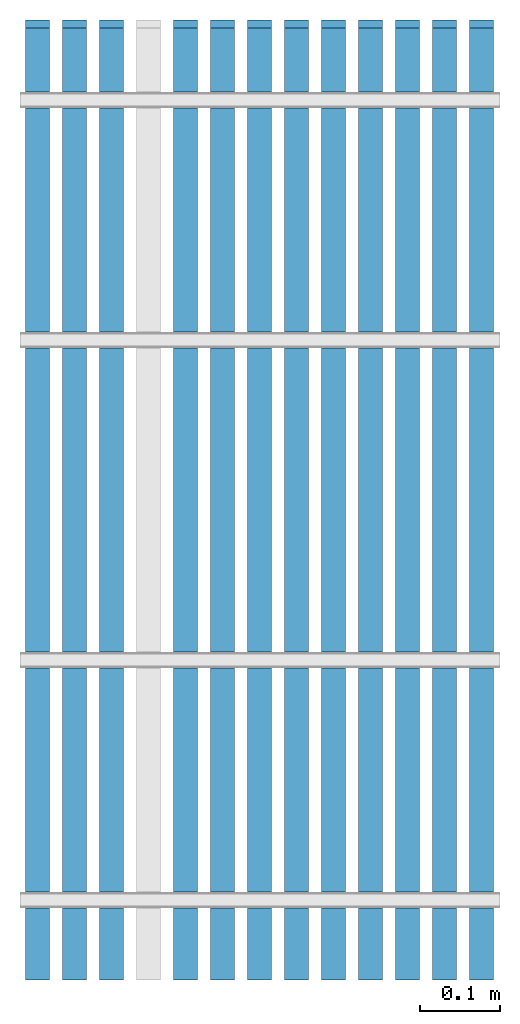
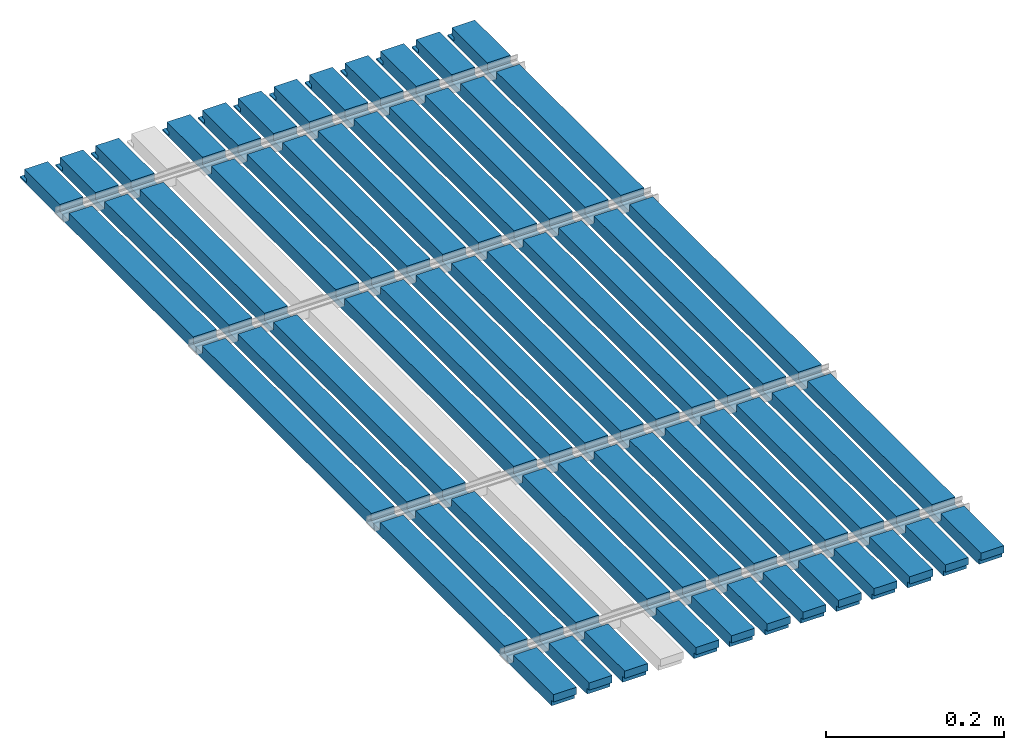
# One storey, part 2 of 3: 12 walls.
"""IFC2X3 building model written with IfcOpenShell, lengths in millimetres."""

from ifc_helpers import new_model, entity, si_unit, converted_unit, money_unit, direction, frame, origin_with_axes, place, context, subcontext, project, spatial, polyline, outline, extrude, boolean, faceted_brep, material, layer, layer_set, layer_usage, type_object, element, save


model = new_model("IFC2X3")

# Units and contexts
model_context = context("Model", 3, precision=1e-05, world=origin_with_axes(), true_north=direction((0.0, 1.0)))
body_context = subcontext(model_context, "Body", "Model", "MODEL_VIEW")
ifc_project = project(units=[si_unit("LENGTHUNIT", "METRE", prefix="MILLI"), si_unit("AREAUNIT", "SQUARE_METRE"), si_unit("VOLUMEUNIT", "CUBIC_METRE"), converted_unit("PLANEANGLEUNIT", "DEGREE", entity("IfcPlaneAngleMeasure", 0.0174532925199), si_unit("PLANEANGLEUNIT", "RADIAN"), dimensions=[0, 0, 0, 0, 0, 0, 0]), si_unit("SOLIDANGLEUNIT", "STERADIAN"), money_unit("AUD"), si_unit("TIMEUNIT", "SECOND"), si_unit("MASSUNIT", "GRAM"), si_unit("THERMODYNAMICTEMPERATUREUNIT", "DEGREE_CELSIUS"), si_unit("LUMINOUSINTENSITYUNIT", "LUMEN")], contexts=[model_context])

# Site, building, storey
site_placement = place(None, origin_with_axes())
site = spatial("IfcSite", under=ifc_project, at=site_placement, Name="Site", CompositionType="ELEMENT")
building_placement = place(site_placement, origin_with_axes())
building = spatial("IfcBuilding", under=site, at=building_placement, Name="Building", CompositionType="ELEMENT")
storey_placement = place(building_placement, origin_with_axes())
storey = spatial("IfcBuildingStorey", under=building, at=storey_placement, Name="GROUND", CompositionType="ELEMENT", Elevation=0.0)

# Walls
ifc_material = material(Name="Timber")
ifc_layer = layer(ifc_material, 30.0, ventilated="UNKNOWN")
ifc_layer_set = layer_set([ifc_layer], Name="Timber 30")
ifc_layer_usage_1 = layer_usage(ifc_layer_set, "AXIS2", "POSITIVE", 0.0)
wall_type = type_object("IfcWallType", Name="Timber 30", PredefinedType="NOTDEFINED")
wall_1_placement = place(storey_placement, frame((546.25, 0.0, 0.0), z_axis=(0.0, 0.0, 1.0), x_axis=(0.0, 1.0, 0.0)))
element("IfcWallStandardCase", 1, at=wall_1_placement, inside=storey, type_object=wall_type, material=ifc_layer_usage_1, Name="WALL-01", context=body_context, shape_type="CSG", body=[
    boolean("DIFFERENCE", boolean("DIFFERENCE", boolean("DIFFERENCE", boolean("DIFFERENCE", boolean("DIFFERENCE", boolean("DIFFERENCE", extrude(outline(polyline([(0.0, 0.0), (1200.0, 0.0), (1200.0, 30.0), (0.0, 30.0), (0.0, 0.0)])), origin_with_axes(), (0.0, 0.0, 1.0), 18.0), faceted_brep([(4.5, 0.0, 8.0), (0.0, 0.0, 8.0), (0.0, 0.0, 0.0), (4.5, 0.0, 0.0), (4.5, 30.0, 8.0), (0.0, 30.0, 8.0), (0.0, 30.0, 0.0), (4.5, 30.0, 0.0)], [[[0, 1, 2, 3]], [[1, 0, 4, 5]], [[1, 5, 6, 2]], [[7, 3, 2, 6]], [[0, 3, 7, 4]], [[4, 7, 6, 5]]])), faceted_brep([(90.0, 0.0, 8.0), (110.0, 0.0, 8.0), (110.0, 0.0, 18.0), (90.0, 0.0, 18.0), (90.0, 30.0, 8.0), (110.0, 30.0, 8.0), (110.0, 30.0, 18.0), (90.0, 30.0, 18.0)], [[[0, 1, 2, 3]], [[1, 0, 4, 5]], [[6, 2, 1, 5]], [[7, 3, 2, 6]], [[0, 3, 7, 4]], [[4, 7, 6, 5]]])), faceted_brep([(390.0, 0.0, 8.0), (410.0, 0.0, 8.0), (410.0, 0.0, 18.0), (390.0, 0.0, 18.0), (390.0, 30.0, 8.0), (410.0, 30.0, 8.0), (410.0, 30.0, 18.0), (390.0, 30.0, 18.0)], [[[0, 1, 2, 3]], [[1, 0, 4, 5]], [[6, 2, 1, 5]], [[7, 3, 2, 6]], [[0, 3, 7, 4]], [[4, 7, 6, 5]]])), faceted_brep([(790.0, 0.0, 8.0), (810.0, 0.0, 8.0), (810.0, 0.0, 18.0), (790.0, 0.0, 18.0), (790.0, 30.0, 8.0), (810.0, 30.0, 8.0), (810.0, 30.0, 18.0), (790.0, 30.0, 18.0)], [[[0, 1, 2, 3]], [[1, 0, 4, 5]], [[6, 2, 1, 5]], [[7, 3, 2, 6]], [[0, 3, 7, 4]], [[4, 7, 6, 5]]])), faceted_brep([(1090.0, 0.0, 8.0), (1110.0, 0.0, 8.0), (1110.0, 0.0, 18.0), (1090.0, 0.0, 18.0), (1090.0, 30.0, 8.0), (1110.0, 30.0, 8.0), (1110.0, 30.0, 18.0), (1090.0, 30.0, 18.0)], [[[0, 1, 2, 3]], [[1, 0, 4, 5]], [[6, 2, 1, 5]], [[7, 3, 2, 6]], [[0, 3, 7, 4]], [[4, 7, 6, 5]]])), faceted_brep([(1185.0, 0.0, 7.5), (1185.0, 0.0, 2.0), (1200.0, 0.0, 2.0), (1200.0, 0.0, 18.0), (1190.0, 0.0, 18.0), (1190.0, 0.0, 7.5), (1185.0, 30.0, 7.5), (1185.0, 30.0, 2.0), (1200.0, 30.0, 2.0), (1200.0, 30.0, 18.0), (1190.0, 30.0, 18.0), (1190.0, 30.0, 7.5)], [[[0, 1, 2, 3, 4, 5]], [[1, 0, 6, 7]], [[8, 2, 1, 7]], [[2, 8, 9, 3]], [[10, 4, 3, 9]], [[5, 4, 10, 11]], [[0, 5, 11, 6]], [[11, 10, 9, 8, 7, 6]]])),
])
ifc_layer_usage_2 = layer_usage(ifc_layer_set, "AXIS2", "POSITIVE", 0.0)
wall_2_placement = place(storey_placement, frame((37.5, 0.0, 0.0), z_axis=(0.0, 0.0, 1.0), x_axis=(0.0, 1.0, 0.0)))
element("IfcWallStandardCase", 2, at=wall_2_placement, inside=storey, type_object=wall_type, material=ifc_layer_usage_2, Name="WALL-01", context=body_context, shape_type="CSG", body=[
    boolean("DIFFERENCE", boolean("DIFFERENCE", boolean("DIFFERENCE", boolean("DIFFERENCE", boolean("DIFFERENCE", boolean("DIFFERENCE", extrude(outline(polyline([(0.0, 0.0), (1200.0, 0.0), (1200.0, 30.0), (0.0, 30.0), (0.0, 0.0)])), origin_with_axes(), (0.0, 0.0, 1.0), 18.0), faceted_brep([(4.5, 0.0, 8.0), (0.0, 0.0, 8.0), (0.0, 0.0, 0.0), (4.5, 0.0, 0.0), (4.5, 30.0, 8.0), (0.0, 30.0, 8.0), (0.0, 30.0, 0.0), (4.5, 30.0, 0.0)], [[[0, 1, 2, 3]], [[1, 0, 4, 5]], [[1, 5, 6, 2]], [[7, 3, 2, 6]], [[0, 3, 7, 4]], [[4, 7, 6, 5]]])), faceted_brep([(90.0, 0.0, 8.0), (110.0, 0.0, 8.0), (110.0, 0.0, 18.0), (90.0, 0.0, 18.0), (90.0, 30.0, 8.0), (110.0, 30.0, 8.0), (110.0, 30.0, 18.0), (90.0, 30.0, 18.0)], [[[0, 1, 2, 3]], [[1, 0, 4, 5]], [[6, 2, 1, 5]], [[7, 3, 2, 6]], [[0, 3, 7, 4]], [[4, 7, 6, 5]]])), faceted_brep([(390.0, 0.0, 8.0), (410.0, 0.0, 8.0), (410.0, 0.0, 18.0), (390.0, 0.0, 18.0), (390.0, 30.0, 8.0), (410.0, 30.0, 8.0), (410.0, 30.0, 18.0), (390.0, 30.0, 18.0)], [[[0, 1, 2, 3]], [[1, 0, 4, 5]], [[6, 2, 1, 5]], [[7, 3, 2, 6]], [[0, 3, 7, 4]], [[4, 7, 6, 5]]])), faceted_brep([(790.0, 0.0, 8.0), (810.0, 0.0, 8.0), (810.0, 0.0, 18.0), (790.0, 0.0, 18.0), (790.0, 30.0, 8.0), (810.0, 30.0, 8.0), (810.0, 30.0, 18.0), (790.0, 30.0, 18.0)], [[[0, 1, 2, 3]], [[1, 0, 4, 5]], [[6, 2, 1, 5]], [[7, 3, 2, 6]], [[0, 3, 7, 4]], [[4, 7, 6, 5]]])), faceted_brep([(1090.0, 0.0, 8.0), (1110.0, 0.0, 8.0), (1110.0, 0.0, 18.0), (1090.0, 0.0, 18.0), (1090.0, 30.0, 8.0), (1110.0, 30.0, 8.0), (1110.0, 30.0, 18.0), (1090.0, 30.0, 18.0)], [[[0, 1, 2, 3]], [[1, 0, 4, 5]], [[6, 2, 1, 5]], [[7, 3, 2, 6]], [[0, 3, 7, 4]], [[4, 7, 6, 5]]])), faceted_brep([(1185.0, 0.0, 7.5), (1185.0, 0.0, 2.0), (1200.0, 0.0, 2.0), (1200.0, 0.0, 18.0), (1190.0, 0.0, 18.0), (1190.0, 0.0, 7.5), (1185.0, 30.0, 7.5), (1185.0, 30.0, 2.0), (1200.0, 30.0, 2.0), (1200.0, 30.0, 18.0), (1190.0, 30.0, 18.0), (1190.0, 30.0, 7.5)], [[[0, 1, 2, 3, 4, 5]], [[1, 0, 6, 7]], [[8, 2, 1, 7]], [[2, 8, 9, 3]], [[10, 4, 3, 9]], [[5, 4, 10, 11]], [[0, 5, 11, 6]], [[11, 10, 9, 8, 7, 6]]])),
])
ifc_layer_usage_3 = layer_usage(ifc_layer_set, "AXIS2", "POSITIVE", 0.0)
wall_3_placement = place(storey_placement, frame((592.5, 0.0, 0.0), z_axis=(0.0, 0.0, 1.0), x_axis=(0.0, 1.0, 0.0)))
element("IfcWallStandardCase", 3, at=wall_3_placement, inside=storey, type_object=wall_type, material=ifc_layer_usage_3, Name="WALL-01", context=body_context, shape_type="CSG", body=[
    boolean("DIFFERENCE", boolean("DIFFERENCE", boolean("DIFFERENCE", boolean("DIFFERENCE", boolean("DIFFERENCE", boolean("DIFFERENCE", extrude(outline(polyline([(0.0, 0.0), (1200.0, 0.0), (1200.0, 30.0), (0.0, 30.0), (0.0, 0.0)])), origin_with_axes(), (0.0, 0.0, 1.0), 18.0), faceted_brep([(4.5, 0.0, 8.0), (0.0, 0.0, 8.0), (0.0, 0.0, 0.0), (4.5, 0.0, 0.0), (4.5, 30.0, 8.0), (0.0, 30.0, 8.0), (0.0, 30.0, 0.0), (4.5, 30.0, 0.0)], [[[0, 1, 2, 3]], [[1, 0, 4, 5]], [[1, 5, 6, 2]], [[7, 3, 2, 6]], [[0, 3, 7, 4]], [[4, 7, 6, 5]]])), faceted_brep([(90.0, 0.0, 8.0), (110.0, 0.0, 8.0), (110.0, 0.0, 18.0), (90.0, 0.0, 18.0), (90.0, 30.0, 8.0), (110.0, 30.0, 8.0), (110.0, 30.0, 18.0), (90.0, 30.0, 18.0)], [[[0, 1, 2, 3]], [[1, 0, 4, 5]], [[6, 2, 1, 5]], [[7, 3, 2, 6]], [[0, 3, 7, 4]], [[4, 7, 6, 5]]])), faceted_brep([(390.0, 0.0, 8.0), (410.0, 0.0, 8.0), (410.0, 0.0, 18.0), (390.0, 0.0, 18.0), (390.0, 30.0, 8.0), (410.0, 30.0, 8.0), (410.0, 30.0, 18.0), (390.0, 30.0, 18.0)], [[[0, 1, 2, 3]], [[1, 0, 4, 5]], [[6, 2, 1, 5]], [[7, 3, 2, 6]], [[0, 3, 7, 4]], [[4, 7, 6, 5]]])), faceted_brep([(790.0, 0.0, 8.0), (810.0, 0.0, 8.0), (810.0, 0.0, 18.0), (790.0, 0.0, 18.0), (790.0, 30.0, 8.0), (810.0, 30.0, 8.0), (810.0, 30.0, 18.0), (790.0, 30.0, 18.0)], [[[0, 1, 2, 3]], [[1, 0, 4, 5]], [[6, 2, 1, 5]], [[7, 3, 2, 6]], [[0, 3, 7, 4]], [[4, 7, 6, 5]]])), faceted_brep([(1090.0, 0.0, 8.0), (1110.0, 0.0, 8.0), (1110.0, 0.0, 18.0), (1090.0, 0.0, 18.0), (1090.0, 30.0, 8.0), (1110.0, 30.0, 8.0), (1110.0, 30.0, 18.0), (1090.0, 30.0, 18.0)], [[[0, 1, 2, 3]], [[1, 0, 4, 5]], [[6, 2, 1, 5]], [[7, 3, 2, 6]], [[0, 3, 7, 4]], [[4, 7, 6, 5]]])), faceted_brep([(1185.0, 0.0, 7.5), (1185.0, 0.0, 2.0), (1200.0, 0.0, 2.0), (1200.0, 0.0, 18.0), (1190.0, 0.0, 18.0), (1190.0, 0.0, 7.5), (1185.0, 30.0, 7.5), (1185.0, 30.0, 2.0), (1200.0, 30.0, 2.0), (1200.0, 30.0, 18.0), (1190.0, 30.0, 18.0), (1190.0, 30.0, 7.5)], [[[0, 1, 2, 3, 4, 5]], [[1, 0, 6, 7]], [[8, 2, 1, 7]], [[2, 8, 9, 3]], [[10, 4, 3, 9]], [[5, 4, 10, 11]], [[0, 5, 11, 6]], [[11, 10, 9, 8, 7, 6]]])),
])
ifc_layer_usage_4 = layer_usage(ifc_layer_set, "AXIS2", "POSITIVE", 0.0)
wall_4_placement = place(storey_placement, frame((500.0, 0.0, 0.0), z_axis=(0.0, 0.0, 1.0), x_axis=(0.0, 1.0, 0.0)))
element("IfcWallStandardCase", 4, at=wall_4_placement, inside=storey, type_object=wall_type, material=ifc_layer_usage_4, Name="WALL-01", context=body_context, shape_type="CSG", body=[
    boolean("DIFFERENCE", boolean("DIFFERENCE", boolean("DIFFERENCE", boolean("DIFFERENCE", boolean("DIFFERENCE", boolean("DIFFERENCE", extrude(outline(polyline([(0.0, 0.0), (1200.0, 0.0), (1200.0, 30.0), (0.0, 30.0), (0.0, 0.0)])), origin_with_axes(), (0.0, 0.0, 1.0), 18.0), faceted_brep([(4.5, 0.0, 8.0), (0.0, 0.0, 8.0), (0.0, 0.0, 0.0), (4.5, 0.0, 0.0), (4.5, 30.0, 8.0), (0.0, 30.0, 8.0), (0.0, 30.0, 0.0), (4.5, 30.0, 0.0)], [[[0, 1, 2, 3]], [[1, 0, 4, 5]], [[1, 5, 6, 2]], [[7, 3, 2, 6]], [[0, 3, 7, 4]], [[4, 7, 6, 5]]])), faceted_brep([(90.0, 0.0, 8.0), (110.0, 0.0, 8.0), (110.0, 0.0, 18.0), (90.0, 0.0, 18.0), (90.0, 30.0, 8.0), (110.0, 30.0, 8.0), (110.0, 30.0, 18.0), (90.0, 30.0, 18.0)], [[[0, 1, 2, 3]], [[1, 0, 4, 5]], [[6, 2, 1, 5]], [[7, 3, 2, 6]], [[0, 3, 7, 4]], [[4, 7, 6, 5]]])), faceted_brep([(390.0, 0.0, 8.0), (410.0, 0.0, 8.0), (410.0, 0.0, 18.0), (390.0, 0.0, 18.0), (390.0, 30.0, 8.0), (410.0, 30.0, 8.0), (410.0, 30.0, 18.0), (390.0, 30.0, 18.0)], [[[0, 1, 2, 3]], [[1, 0, 4, 5]], [[6, 2, 1, 5]], [[7, 3, 2, 6]], [[0, 3, 7, 4]], [[4, 7, 6, 5]]])), faceted_brep([(790.0, 0.0, 8.0), (810.0, 0.0, 8.0), (810.0, 0.0, 18.0), (790.0, 0.0, 18.0), (790.0, 30.0, 8.0), (810.0, 30.0, 8.0), (810.0, 30.0, 18.0), (790.0, 30.0, 18.0)], [[[0, 1, 2, 3]], [[1, 0, 4, 5]], [[6, 2, 1, 5]], [[7, 3, 2, 6]], [[0, 3, 7, 4]], [[4, 7, 6, 5]]])), faceted_brep([(1090.0, 0.0, 8.0), (1110.0, 0.0, 8.0), (1110.0, 0.0, 18.0), (1090.0, 0.0, 18.0), (1090.0, 30.0, 8.0), (1110.0, 30.0, 8.0), (1110.0, 30.0, 18.0), (1090.0, 30.0, 18.0)], [[[0, 1, 2, 3]], [[1, 0, 4, 5]], [[6, 2, 1, 5]], [[7, 3, 2, 6]], [[0, 3, 7, 4]], [[4, 7, 6, 5]]])), faceted_brep([(1185.0, 0.0, 7.5), (1185.0, 0.0, 2.0), (1200.0, 0.0, 2.0), (1200.0, 0.0, 18.0), (1190.0, 0.0, 18.0), (1190.0, 0.0, 7.5), (1185.0, 30.0, 7.5), (1185.0, 30.0, 2.0), (1200.0, 30.0, 2.0), (1200.0, 30.0, 18.0), (1190.0, 30.0, 18.0), (1190.0, 30.0, 7.5)], [[[0, 1, 2, 3, 4, 5]], [[1, 0, 6, 7]], [[8, 2, 1, 7]], [[2, 8, 9, 3]], [[10, 4, 3, 9]], [[5, 4, 10, 11]], [[0, 5, 11, 6]], [[11, 10, 9, 8, 7, 6]]])),
])
ifc_layer_usage_5 = layer_usage(ifc_layer_set, "AXIS2", "POSITIVE", 0.0)
wall_5_placement = place(storey_placement, frame((453.75, 0.0, 0.0), z_axis=(0.0, 0.0, 1.0), x_axis=(0.0, 1.0, 0.0)))
element("IfcWallStandardCase", 5, at=wall_5_placement, inside=storey, type_object=wall_type, material=ifc_layer_usage_5, Name="WALL-01", context=body_context, shape_type="CSG", body=[
    boolean("DIFFERENCE", boolean("DIFFERENCE", boolean("DIFFERENCE", boolean("DIFFERENCE", boolean("DIFFERENCE", boolean("DIFFERENCE", extrude(outline(polyline([(0.0, 0.0), (1200.0, 0.0), (1200.0, 30.0), (0.0, 30.0), (0.0, 0.0)])), origin_with_axes(), (0.0, 0.0, 1.0), 18.0), faceted_brep([(4.5, 0.0, 8.0), (0.0, 0.0, 8.0), (0.0, 0.0, 0.0), (4.5, 0.0, 0.0), (4.5, 30.0, 8.0), (0.0, 30.0, 8.0), (0.0, 30.0, 0.0), (4.5, 30.0, 0.0)], [[[0, 1, 2, 3]], [[1, 0, 4, 5]], [[1, 5, 6, 2]], [[7, 3, 2, 6]], [[0, 3, 7, 4]], [[4, 7, 6, 5]]])), faceted_brep([(90.0, 0.0, 8.0), (110.0, 0.0, 8.0), (110.0, 0.0, 18.0), (90.0, 0.0, 18.0), (90.0, 30.0, 8.0), (110.0, 30.0, 8.0), (110.0, 30.0, 18.0), (90.0, 30.0, 18.0)], [[[0, 1, 2, 3]], [[1, 0, 4, 5]], [[6, 2, 1, 5]], [[7, 3, 2, 6]], [[0, 3, 7, 4]], [[4, 7, 6, 5]]])), faceted_brep([(390.0, 0.0, 8.0), (410.0, 0.0, 8.0), (410.0, 0.0, 18.0), (390.0, 0.0, 18.0), (390.0, 30.0, 8.0), (410.0, 30.0, 8.0), (410.0, 30.0, 18.0), (390.0, 30.0, 18.0)], [[[0, 1, 2, 3]], [[1, 0, 4, 5]], [[6, 2, 1, 5]], [[7, 3, 2, 6]], [[0, 3, 7, 4]], [[4, 7, 6, 5]]])), faceted_brep([(790.0, 0.0, 8.0), (810.0, 0.0, 8.0), (810.0, 0.0, 18.0), (790.0, 0.0, 18.0), (790.0, 30.0, 8.0), (810.0, 30.0, 8.0), (810.0, 30.0, 18.0), (790.0, 30.0, 18.0)], [[[0, 1, 2, 3]], [[1, 0, 4, 5]], [[6, 2, 1, 5]], [[7, 3, 2, 6]], [[0, 3, 7, 4]], [[4, 7, 6, 5]]])), faceted_brep([(1090.0, 0.0, 8.0), (1110.0, 0.0, 8.0), (1110.0, 0.0, 18.0), (1090.0, 0.0, 18.0), (1090.0, 30.0, 8.0), (1110.0, 30.0, 8.0), (1110.0, 30.0, 18.0), (1090.0, 30.0, 18.0)], [[[0, 1, 2, 3]], [[1, 0, 4, 5]], [[6, 2, 1, 5]], [[7, 3, 2, 6]], [[0, 3, 7, 4]], [[4, 7, 6, 5]]])), faceted_brep([(1185.0, 0.0, 7.5), (1185.0, 0.0, 2.0), (1200.0, 0.0, 2.0), (1200.0, 0.0, 18.0), (1190.0, 0.0, 18.0), (1190.0, 0.0, 7.5), (1185.0, 30.0, 7.5), (1185.0, 30.0, 2.0), (1200.0, 30.0, 2.0), (1200.0, 30.0, 18.0), (1190.0, 30.0, 18.0), (1190.0, 30.0, 7.5)], [[[0, 1, 2, 3, 4, 5]], [[1, 0, 6, 7]], [[8, 2, 1, 7]], [[2, 8, 9, 3]], [[10, 4, 3, 9]], [[5, 4, 10, 11]], [[0, 5, 11, 6]], [[11, 10, 9, 8, 7, 6]]])),
])
ifc_layer_usage_6 = layer_usage(ifc_layer_set, "AXIS2", "POSITIVE", 0.0)
wall_6_placement = place(storey_placement, frame((407.5, 0.0, 0.0), z_axis=(0.0, 0.0, 1.0), x_axis=(0.0, 1.0, 0.0)))
element("IfcWallStandardCase", 6, at=wall_6_placement, inside=storey, type_object=wall_type, material=ifc_layer_usage_6, Name="WALL-01", context=body_context, shape_type="CSG", body=[
    boolean("DIFFERENCE", boolean("DIFFERENCE", boolean("DIFFERENCE", boolean("DIFFERENCE", boolean("DIFFERENCE", boolean("DIFFERENCE", extrude(outline(polyline([(0.0, 0.0), (1200.0, 0.0), (1200.0, 30.0), (0.0, 30.0), (0.0, 0.0)])), origin_with_axes(), (0.0, 0.0, 1.0), 18.0), faceted_brep([(4.5, 0.0, 8.0), (0.0, 0.0, 8.0), (0.0, 0.0, 0.0), (4.5, 0.0, 0.0), (4.5, 30.0, 8.0), (0.0, 30.0, 8.0), (0.0, 30.0, 0.0), (4.5, 30.0, 0.0)], [[[0, 1, 2, 3]], [[1, 0, 4, 5]], [[1, 5, 6, 2]], [[7, 3, 2, 6]], [[0, 3, 7, 4]], [[4, 7, 6, 5]]])), faceted_brep([(90.0, 0.0, 8.0), (110.0, 0.0, 8.0), (110.0, 0.0, 18.0), (90.0, 0.0, 18.0), (90.0, 30.0, 8.0), (110.0, 30.0, 8.0), (110.0, 30.0, 18.0), (90.0, 30.0, 18.0)], [[[0, 1, 2, 3]], [[1, 0, 4, 5]], [[6, 2, 1, 5]], [[7, 3, 2, 6]], [[0, 3, 7, 4]], [[4, 7, 6, 5]]])), faceted_brep([(390.0, 0.0, 8.0), (410.0, 0.0, 8.0), (410.0, 0.0, 18.0), (390.0, 0.0, 18.0), (390.0, 30.0, 8.0), (410.0, 30.0, 8.0), (410.0, 30.0, 18.0), (390.0, 30.0, 18.0)], [[[0, 1, 2, 3]], [[1, 0, 4, 5]], [[6, 2, 1, 5]], [[7, 3, 2, 6]], [[0, 3, 7, 4]], [[4, 7, 6, 5]]])), faceted_brep([(790.0, 0.0, 8.0), (810.0, 0.0, 8.0), (810.0, 0.0, 18.0), (790.0, 0.0, 18.0), (790.0, 30.0, 8.0), (810.0, 30.0, 8.0), (810.0, 30.0, 18.0), (790.0, 30.0, 18.0)], [[[0, 1, 2, 3]], [[1, 0, 4, 5]], [[6, 2, 1, 5]], [[7, 3, 2, 6]], [[0, 3, 7, 4]], [[4, 7, 6, 5]]])), faceted_brep([(1090.0, 0.0, 8.0), (1110.0, 0.0, 8.0), (1110.0, 0.0, 18.0), (1090.0, 0.0, 18.0), (1090.0, 30.0, 8.0), (1110.0, 30.0, 8.0), (1110.0, 30.0, 18.0), (1090.0, 30.0, 18.0)], [[[0, 1, 2, 3]], [[1, 0, 4, 5]], [[6, 2, 1, 5]], [[7, 3, 2, 6]], [[0, 3, 7, 4]], [[4, 7, 6, 5]]])), faceted_brep([(1185.0, 0.0, 7.5), (1185.0, 0.0, 2.0), (1200.0, 0.0, 2.0), (1200.0, 0.0, 18.0), (1190.0, 0.0, 18.0), (1190.0, 0.0, 7.5), (1185.0, 30.0, 7.5), (1185.0, 30.0, 2.0), (1200.0, 30.0, 2.0), (1200.0, 30.0, 18.0), (1190.0, 30.0, 18.0), (1190.0, 30.0, 7.5)], [[[0, 1, 2, 3, 4, 5]], [[1, 0, 6, 7]], [[8, 2, 1, 7]], [[2, 8, 9, 3]], [[10, 4, 3, 9]], [[5, 4, 10, 11]], [[0, 5, 11, 6]], [[11, 10, 9, 8, 7, 6]]])),
])
ifc_layer_usage_7 = layer_usage(ifc_layer_set, "AXIS2", "POSITIVE", 0.0)
wall_7_placement = place(storey_placement, frame((361.25, 0.0, 0.0), z_axis=(0.0, 0.0, 1.0), x_axis=(0.0, 1.0, 0.0)))
element("IfcWallStandardCase", 7, at=wall_7_placement, inside=storey, type_object=wall_type, material=ifc_layer_usage_7, Name="WALL-01", context=body_context, shape_type="CSG", body=[
    boolean("DIFFERENCE", boolean("DIFFERENCE", boolean("DIFFERENCE", boolean("DIFFERENCE", boolean("DIFFERENCE", boolean("DIFFERENCE", extrude(outline(polyline([(0.0, 0.0), (1200.0, 0.0), (1200.0, 30.0), (0.0, 30.0), (0.0, 0.0)])), origin_with_axes(), (0.0, 0.0, 1.0), 18.0), faceted_brep([(4.5, 0.0, 8.0), (0.0, 0.0, 8.0), (0.0, 0.0, 0.0), (4.5, 0.0, 0.0), (4.5, 30.0, 8.0), (0.0, 30.0, 8.0), (0.0, 30.0, 0.0), (4.5, 30.0, 0.0)], [[[0, 1, 2, 3]], [[1, 0, 4, 5]], [[1, 5, 6, 2]], [[7, 3, 2, 6]], [[0, 3, 7, 4]], [[4, 7, 6, 5]]])), faceted_brep([(90.0, 0.0, 8.0), (110.0, 0.0, 8.0), (110.0, 0.0, 18.0), (90.0, 0.0, 18.0), (90.0, 30.0, 8.0), (110.0, 30.0, 8.0), (110.0, 30.0, 18.0), (90.0, 30.0, 18.0)], [[[0, 1, 2, 3]], [[1, 0, 4, 5]], [[6, 2, 1, 5]], [[7, 3, 2, 6]], [[0, 3, 7, 4]], [[4, 7, 6, 5]]])), faceted_brep([(390.0, 0.0, 8.0), (410.0, 0.0, 8.0), (410.0, 0.0, 18.0), (390.0, 0.0, 18.0), (390.0, 30.0, 8.0), (410.0, 30.0, 8.0), (410.0, 30.0, 18.0), (390.0, 30.0, 18.0)], [[[0, 1, 2, 3]], [[1, 0, 4, 5]], [[6, 2, 1, 5]], [[7, 3, 2, 6]], [[0, 3, 7, 4]], [[4, 7, 6, 5]]])), faceted_brep([(790.0, 0.0, 8.0), (810.0, 0.0, 8.0), (810.0, 0.0, 18.0), (790.0, 0.0, 18.0), (790.0, 30.0, 8.0), (810.0, 30.0, 8.0), (810.0, 30.0, 18.0), (790.0, 30.0, 18.0)], [[[0, 1, 2, 3]], [[1, 0, 4, 5]], [[6, 2, 1, 5]], [[7, 3, 2, 6]], [[0, 3, 7, 4]], [[4, 7, 6, 5]]])), faceted_brep([(1090.0, 0.0, 8.0), (1110.0, 0.0, 8.0), (1110.0, 0.0, 18.0), (1090.0, 0.0, 18.0), (1090.0, 30.0, 8.0), (1110.0, 30.0, 8.0), (1110.0, 30.0, 18.0), (1090.0, 30.0, 18.0)], [[[0, 1, 2, 3]], [[1, 0, 4, 5]], [[6, 2, 1, 5]], [[7, 3, 2, 6]], [[0, 3, 7, 4]], [[4, 7, 6, 5]]])), faceted_brep([(1185.0, 0.0, 7.5), (1185.0, 0.0, 2.0), (1200.0, 0.0, 2.0), (1200.0, 0.0, 18.0), (1190.0, 0.0, 18.0), (1190.0, 0.0, 7.5), (1185.0, 30.0, 7.5), (1185.0, 30.0, 2.0), (1200.0, 30.0, 2.0), (1200.0, 30.0, 18.0), (1190.0, 30.0, 18.0), (1190.0, 30.0, 7.5)], [[[0, 1, 2, 3, 4, 5]], [[1, 0, 6, 7]], [[8, 2, 1, 7]], [[2, 8, 9, 3]], [[10, 4, 3, 9]], [[5, 4, 10, 11]], [[0, 5, 11, 6]], [[11, 10, 9, 8, 7, 6]]])),
])
ifc_layer_usage_8 = layer_usage(ifc_layer_set, "AXIS2", "POSITIVE", 0.0)
wall_8_placement = place(storey_placement, frame((315.0, 0.0, 0.0), z_axis=(0.0, 0.0, 1.0), x_axis=(0.0, 1.0, 0.0)))
element("IfcWallStandardCase", 8, at=wall_8_placement, inside=storey, type_object=wall_type, material=ifc_layer_usage_8, Name="WALL-01", context=body_context, shape_type="CSG", body=[
    boolean("DIFFERENCE", boolean("DIFFERENCE", boolean("DIFFERENCE", boolean("DIFFERENCE", boolean("DIFFERENCE", boolean("DIFFERENCE", extrude(outline(polyline([(0.0, 0.0), (1200.0, 0.0), (1200.0, 30.0), (0.0, 30.0), (0.0, 0.0)])), origin_with_axes(), (0.0, 0.0, 1.0), 18.0), faceted_brep([(4.5, 0.0, 8.0), (0.0, 0.0, 8.0), (0.0, 0.0, 0.0), (4.5, 0.0, 0.0), (4.5, 30.0, 8.0), (0.0, 30.0, 8.0), (0.0, 30.0, 0.0), (4.5, 30.0, 0.0)], [[[0, 1, 2, 3]], [[1, 0, 4, 5]], [[1, 5, 6, 2]], [[7, 3, 2, 6]], [[0, 3, 7, 4]], [[4, 7, 6, 5]]])), faceted_brep([(90.0, 0.0, 8.0), (110.0, 0.0, 8.0), (110.0, 0.0, 18.0), (90.0, 0.0, 18.0), (90.0, 30.0, 8.0), (110.0, 30.0, 8.0), (110.0, 30.0, 18.0), (90.0, 30.0, 18.0)], [[[0, 1, 2, 3]], [[1, 0, 4, 5]], [[6, 2, 1, 5]], [[7, 3, 2, 6]], [[0, 3, 7, 4]], [[4, 7, 6, 5]]])), faceted_brep([(390.0, 0.0, 8.0), (410.0, 0.0, 8.0), (410.0, 0.0, 18.0), (390.0, 0.0, 18.0), (390.0, 30.0, 8.0), (410.0, 30.0, 8.0), (410.0, 30.0, 18.0), (390.0, 30.0, 18.0)], [[[0, 1, 2, 3]], [[1, 0, 4, 5]], [[6, 2, 1, 5]], [[7, 3, 2, 6]], [[0, 3, 7, 4]], [[4, 7, 6, 5]]])), faceted_brep([(790.0, 0.0, 8.0), (810.0, 0.0, 8.0), (810.0, 0.0, 18.0), (790.0, 0.0, 18.0), (790.0, 30.0, 8.0), (810.0, 30.0, 8.0), (810.0, 30.0, 18.0), (790.0, 30.0, 18.0)], [[[0, 1, 2, 3]], [[1, 0, 4, 5]], [[6, 2, 1, 5]], [[7, 3, 2, 6]], [[0, 3, 7, 4]], [[4, 7, 6, 5]]])), faceted_brep([(1090.0, 0.0, 8.0), (1110.0, 0.0, 8.0), (1110.0, 0.0, 18.0), (1090.0, 0.0, 18.0), (1090.0, 30.0, 8.0), (1110.0, 30.0, 8.0), (1110.0, 30.0, 18.0), (1090.0, 30.0, 18.0)], [[[0, 1, 2, 3]], [[1, 0, 4, 5]], [[6, 2, 1, 5]], [[7, 3, 2, 6]], [[0, 3, 7, 4]], [[4, 7, 6, 5]]])), faceted_brep([(1185.0, 0.0, 7.5), (1185.0, 0.0, 2.0), (1200.0, 0.0, 2.0), (1200.0, 0.0, 18.0), (1190.0, 0.0, 18.0), (1190.0, 0.0, 7.5), (1185.0, 30.0, 7.5), (1185.0, 30.0, 2.0), (1200.0, 30.0, 2.0), (1200.0, 30.0, 18.0), (1190.0, 30.0, 18.0), (1190.0, 30.0, 7.5)], [[[0, 1, 2, 3, 4, 5]], [[1, 0, 6, 7]], [[8, 2, 1, 7]], [[2, 8, 9, 3]], [[10, 4, 3, 9]], [[5, 4, 10, 11]], [[0, 5, 11, 6]], [[11, 10, 9, 8, 7, 6]]])),
])
ifc_layer_usage_9 = layer_usage(ifc_layer_set, "AXIS2", "POSITIVE", 0.0)
wall_9_placement = place(storey_placement, frame((222.5, 0.0, 0.0), z_axis=(0.0, 0.0, 1.0), x_axis=(0.0, 1.0, 0.0)))
element("IfcWallStandardCase", 9, at=wall_9_placement, inside=storey, type_object=wall_type, material=ifc_layer_usage_9, Name="WALL-01", context=body_context, shape_type="CSG", body=[
    boolean("DIFFERENCE", boolean("DIFFERENCE", boolean("DIFFERENCE", boolean("DIFFERENCE", boolean("DIFFERENCE", boolean("DIFFERENCE", extrude(outline(polyline([(0.0, 0.0), (1200.0, 0.0), (1200.0, 30.0), (0.0, 30.0), (0.0, 0.0)])), origin_with_axes(), (0.0, 0.0, 1.0), 18.0), faceted_brep([(4.5, 0.0, 8.0), (0.0, 0.0, 8.0), (0.0, 0.0, 0.0), (4.5, 0.0, 0.0), (4.5, 30.0, 8.0), (0.0, 30.0, 8.0), (0.0, 30.0, 0.0), (4.5, 30.0, 0.0)], [[[0, 1, 2, 3]], [[1, 0, 4, 5]], [[1, 5, 6, 2]], [[7, 3, 2, 6]], [[0, 3, 7, 4]], [[4, 7, 6, 5]]])), faceted_brep([(90.0, 0.0, 8.0), (110.0, 0.0, 8.0), (110.0, 0.0, 18.0), (90.0, 0.0, 18.0), (90.0, 30.0, 8.0), (110.0, 30.0, 8.0), (110.0, 30.0, 18.0), (90.0, 30.0, 18.0)], [[[0, 1, 2, 3]], [[1, 0, 4, 5]], [[6, 2, 1, 5]], [[7, 3, 2, 6]], [[0, 3, 7, 4]], [[4, 7, 6, 5]]])), faceted_brep([(390.0, 0.0, 8.0), (410.0, 0.0, 8.0), (410.0, 0.0, 18.0), (390.0, 0.0, 18.0), (390.0, 30.0, 8.0), (410.0, 30.0, 8.0), (410.0, 30.0, 18.0), (390.0, 30.0, 18.0)], [[[0, 1, 2, 3]], [[1, 0, 4, 5]], [[6, 2, 1, 5]], [[7, 3, 2, 6]], [[0, 3, 7, 4]], [[4, 7, 6, 5]]])), faceted_brep([(790.0, 0.0, 8.0), (810.0, 0.0, 8.0), (810.0, 0.0, 18.0), (790.0, 0.0, 18.0), (790.0, 30.0, 8.0), (810.0, 30.0, 8.0), (810.0, 30.0, 18.0), (790.0, 30.0, 18.0)], [[[0, 1, 2, 3]], [[1, 0, 4, 5]], [[6, 2, 1, 5]], [[7, 3, 2, 6]], [[0, 3, 7, 4]], [[4, 7, 6, 5]]])), faceted_brep([(1090.0, 0.0, 8.0), (1110.0, 0.0, 8.0), (1110.0, 0.0, 18.0), (1090.0, 0.0, 18.0), (1090.0, 30.0, 8.0), (1110.0, 30.0, 8.0), (1110.0, 30.0, 18.0), (1090.0, 30.0, 18.0)], [[[0, 1, 2, 3]], [[1, 0, 4, 5]], [[6, 2, 1, 5]], [[7, 3, 2, 6]], [[0, 3, 7, 4]], [[4, 7, 6, 5]]])), faceted_brep([(1185.0, 0.0, 7.5), (1185.0, 0.0, 2.0), (1200.0, 0.0, 2.0), (1200.0, 0.0, 18.0), (1190.0, 0.0, 18.0), (1190.0, 0.0, 7.5), (1185.0, 30.0, 7.5), (1185.0, 30.0, 2.0), (1200.0, 30.0, 2.0), (1200.0, 30.0, 18.0), (1190.0, 30.0, 18.0), (1190.0, 30.0, 7.5)], [[[0, 1, 2, 3, 4, 5]], [[1, 0, 6, 7]], [[8, 2, 1, 7]], [[2, 8, 9, 3]], [[10, 4, 3, 9]], [[5, 4, 10, 11]], [[0, 5, 11, 6]], [[11, 10, 9, 8, 7, 6]]])),
])
ifc_layer_usage_10 = layer_usage(ifc_layer_set, "AXIS2", "POSITIVE", 0.0)
wall_10_placement = place(storey_placement, frame((268.75, 0.0, 0.0), z_axis=(0.0, 0.0, 1.0), x_axis=(0.0, 1.0, 0.0)))
element("IfcWallStandardCase", 10, at=wall_10_placement, inside=storey, type_object=wall_type, material=ifc_layer_usage_10, Name="WALL-01", context=body_context, shape_type="CSG", body=[
    boolean("DIFFERENCE", boolean("DIFFERENCE", boolean("DIFFERENCE", boolean("DIFFERENCE", boolean("DIFFERENCE", boolean("DIFFERENCE", extrude(outline(polyline([(0.0, 0.0), (1200.0, 0.0), (1200.0, 30.0), (0.0, 30.0), (0.0, 0.0)])), origin_with_axes(), (0.0, 0.0, 1.0), 18.0), faceted_brep([(4.5, 0.0, 8.0), (0.0, 0.0, 8.0), (0.0, 0.0, 0.0), (4.5, 0.0, 0.0), (4.5, 30.0, 8.0), (0.0, 30.0, 8.0), (0.0, 30.0, 0.0), (4.5, 30.0, 0.0)], [[[0, 1, 2, 3]], [[1, 0, 4, 5]], [[1, 5, 6, 2]], [[7, 3, 2, 6]], [[0, 3, 7, 4]], [[4, 7, 6, 5]]])), faceted_brep([(90.0, 0.0, 8.0), (110.0, 0.0, 8.0), (110.0, 0.0, 18.0), (90.0, 0.0, 18.0), (90.0, 30.0, 8.0), (110.0, 30.0, 8.0), (110.0, 30.0, 18.0), (90.0, 30.0, 18.0)], [[[0, 1, 2, 3]], [[1, 0, 4, 5]], [[6, 2, 1, 5]], [[7, 3, 2, 6]], [[0, 3, 7, 4]], [[4, 7, 6, 5]]])), faceted_brep([(390.0, 0.0, 8.0), (410.0, 0.0, 8.0), (410.0, 0.0, 18.0), (390.0, 0.0, 18.0), (390.0, 30.0, 8.0), (410.0, 30.0, 8.0), (410.0, 30.0, 18.0), (390.0, 30.0, 18.0)], [[[0, 1, 2, 3]], [[1, 0, 4, 5]], [[6, 2, 1, 5]], [[7, 3, 2, 6]], [[0, 3, 7, 4]], [[4, 7, 6, 5]]])), faceted_brep([(790.0, 0.0, 8.0), (810.0, 0.0, 8.0), (810.0, 0.0, 18.0), (790.0, 0.0, 18.0), (790.0, 30.0, 8.0), (810.0, 30.0, 8.0), (810.0, 30.0, 18.0), (790.0, 30.0, 18.0)], [[[0, 1, 2, 3]], [[1, 0, 4, 5]], [[6, 2, 1, 5]], [[7, 3, 2, 6]], [[0, 3, 7, 4]], [[4, 7, 6, 5]]])), faceted_brep([(1090.0, 0.0, 8.0), (1110.0, 0.0, 8.0), (1110.0, 0.0, 18.0), (1090.0, 0.0, 18.0), (1090.0, 30.0, 8.0), (1110.0, 30.0, 8.0), (1110.0, 30.0, 18.0), (1090.0, 30.0, 18.0)], [[[0, 1, 2, 3]], [[1, 0, 4, 5]], [[6, 2, 1, 5]], [[7, 3, 2, 6]], [[0, 3, 7, 4]], [[4, 7, 6, 5]]])), faceted_brep([(1185.0, 0.0, 7.5), (1185.0, 0.0, 2.0), (1200.0, 0.0, 2.0), (1200.0, 0.0, 18.0), (1190.0, 0.0, 18.0), (1190.0, 0.0, 7.5), (1185.0, 30.0, 7.5), (1185.0, 30.0, 2.0), (1200.0, 30.0, 2.0), (1200.0, 30.0, 18.0), (1190.0, 30.0, 18.0), (1190.0, 30.0, 7.5)], [[[0, 1, 2, 3, 4, 5]], [[1, 0, 6, 7]], [[8, 2, 1, 7]], [[2, 8, 9, 3]], [[10, 4, 3, 9]], [[5, 4, 10, 11]], [[0, 5, 11, 6]], [[11, 10, 9, 8, 7, 6]]])),
])
ifc_layer_usage_11 = layer_usage(ifc_layer_set, "AXIS2", "POSITIVE", 0.0)
wall_11_placement = place(storey_placement, frame((130.0, 0.0, 0.0), z_axis=(0.0, 0.0, 1.0), x_axis=(0.0, 1.0, 0.0)))
element("IfcWallStandardCase", 11, at=wall_11_placement, inside=storey, type_object=wall_type, material=ifc_layer_usage_11, Name="WALL-01", context=body_context, shape_type="CSG", body=[
    boolean("DIFFERENCE", boolean("DIFFERENCE", boolean("DIFFERENCE", boolean("DIFFERENCE", boolean("DIFFERENCE", boolean("DIFFERENCE", extrude(outline(polyline([(0.0, 0.0), (1200.0, 0.0), (1200.0, 30.0), (0.0, 30.0), (0.0, 0.0)])), origin_with_axes(), (0.0, 0.0, 1.0), 18.0), faceted_brep([(4.5, 0.0, 8.0), (0.0, 0.0, 8.0), (0.0, 0.0, 0.0), (4.5, 0.0, 0.0), (4.5, 30.0, 8.0), (0.0, 30.0, 8.0), (0.0, 30.0, 0.0), (4.5, 30.0, 0.0)], [[[0, 1, 2, 3]], [[1, 0, 4, 5]], [[1, 5, 6, 2]], [[7, 3, 2, 6]], [[0, 3, 7, 4]], [[4, 7, 6, 5]]])), faceted_brep([(90.0, 0.0, 8.0), (110.0, 0.0, 8.0), (110.0, 0.0, 18.0), (90.0, 0.0, 18.0), (90.0, 30.0, 8.0), (110.0, 30.0, 8.0), (110.0, 30.0, 18.0), (90.0, 30.0, 18.0)], [[[0, 1, 2, 3]], [[1, 0, 4, 5]], [[6, 2, 1, 5]], [[7, 3, 2, 6]], [[0, 3, 7, 4]], [[4, 7, 6, 5]]])), faceted_brep([(390.0, 0.0, 8.0), (410.0, 0.0, 8.0), (410.0, 0.0, 18.0), (390.0, 0.0, 18.0), (390.0, 30.0, 8.0), (410.0, 30.0, 8.0), (410.0, 30.0, 18.0), (390.0, 30.0, 18.0)], [[[0, 1, 2, 3]], [[1, 0, 4, 5]], [[6, 2, 1, 5]], [[7, 3, 2, 6]], [[0, 3, 7, 4]], [[4, 7, 6, 5]]])), faceted_brep([(790.0, 0.0, 8.0), (810.0, 0.0, 8.0), (810.0, 0.0, 18.0), (790.0, 0.0, 18.0), (790.0, 30.0, 8.0), (810.0, 30.0, 8.0), (810.0, 30.0, 18.0), (790.0, 30.0, 18.0)], [[[0, 1, 2, 3]], [[1, 0, 4, 5]], [[6, 2, 1, 5]], [[7, 3, 2, 6]], [[0, 3, 7, 4]], [[4, 7, 6, 5]]])), faceted_brep([(1090.0, 0.0, 8.0), (1110.0, 0.0, 8.0), (1110.0, 0.0, 18.0), (1090.0, 0.0, 18.0), (1090.0, 30.0, 8.0), (1110.0, 30.0, 8.0), (1110.0, 30.0, 18.0), (1090.0, 30.0, 18.0)], [[[0, 1, 2, 3]], [[1, 0, 4, 5]], [[6, 2, 1, 5]], [[7, 3, 2, 6]], [[0, 3, 7, 4]], [[4, 7, 6, 5]]])), faceted_brep([(1185.0, 0.0, 7.5), (1185.0, 0.0, 2.0), (1200.0, 0.0, 2.0), (1200.0, 0.0, 18.0), (1190.0, 0.0, 18.0), (1190.0, 0.0, 7.5), (1185.0, 30.0, 7.5), (1185.0, 30.0, 2.0), (1200.0, 30.0, 2.0), (1200.0, 30.0, 18.0), (1190.0, 30.0, 18.0), (1190.0, 30.0, 7.5)], [[[0, 1, 2, 3, 4, 5]], [[1, 0, 6, 7]], [[8, 2, 1, 7]], [[2, 8, 9, 3]], [[10, 4, 3, 9]], [[5, 4, 10, 11]], [[0, 5, 11, 6]], [[11, 10, 9, 8, 7, 6]]])),
])
ifc_layer_usage_12 = layer_usage(ifc_layer_set, "AXIS2", "POSITIVE", 0.0)
wall_12_placement = place(storey_placement, frame((83.75, 0.0, 0.0), z_axis=(0.0, 0.0, 1.0), x_axis=(0.0, 1.0, 0.0)))
element("IfcWallStandardCase", 12, at=wall_12_placement, inside=storey, type_object=wall_type, material=ifc_layer_usage_12, Name="WALL-01", context=body_context, shape_type="CSG", body=[
    boolean("DIFFERENCE", boolean("DIFFERENCE", boolean("DIFFERENCE", boolean("DIFFERENCE", boolean("DIFFERENCE", boolean("DIFFERENCE", extrude(outline(polyline([(0.0, 0.0), (1200.0, 0.0), (1200.0, 30.0), (0.0, 30.0), (0.0, 0.0)])), origin_with_axes(), (0.0, 0.0, 1.0), 18.0), faceted_brep([(4.5, 0.0, 8.0), (0.0, 0.0, 8.0), (0.0, 0.0, 0.0), (4.5, 0.0, 0.0), (4.5, 30.0, 8.0), (0.0, 30.0, 8.0), (0.0, 30.0, 0.0), (4.5, 30.0, 0.0)], [[[0, 1, 2, 3]], [[1, 0, 4, 5]], [[1, 5, 6, 2]], [[7, 3, 2, 6]], [[0, 3, 7, 4]], [[4, 7, 6, 5]]])), faceted_brep([(90.0, 0.0, 8.0), (110.0, 0.0, 8.0), (110.0, 0.0, 18.0), (90.0, 0.0, 18.0), (90.0, 30.0, 8.0), (110.0, 30.0, 8.0), (110.0, 30.0, 18.0), (90.0, 30.0, 18.0)], [[[0, 1, 2, 3]], [[1, 0, 4, 5]], [[6, 2, 1, 5]], [[7, 3, 2, 6]], [[0, 3, 7, 4]], [[4, 7, 6, 5]]])), faceted_brep([(390.0, 0.0, 8.0), (410.0, 0.0, 8.0), (410.0, 0.0, 18.0), (390.0, 0.0, 18.0), (390.0, 30.0, 8.0), (410.0, 30.0, 8.0), (410.0, 30.0, 18.0), (390.0, 30.0, 18.0)], [[[0, 1, 2, 3]], [[1, 0, 4, 5]], [[6, 2, 1, 5]], [[7, 3, 2, 6]], [[0, 3, 7, 4]], [[4, 7, 6, 5]]])), faceted_brep([(790.0, 0.0, 8.0), (810.0, 0.0, 8.0), (810.0, 0.0, 18.0), (790.0, 0.0, 18.0), (790.0, 30.0, 8.0), (810.0, 30.0, 8.0), (810.0, 30.0, 18.0), (790.0, 30.0, 18.0)], [[[0, 1, 2, 3]], [[1, 0, 4, 5]], [[6, 2, 1, 5]], [[7, 3, 2, 6]], [[0, 3, 7, 4]], [[4, 7, 6, 5]]])), faceted_brep([(1090.0, 0.0, 8.0), (1110.0, 0.0, 8.0), (1110.0, 0.0, 18.0), (1090.0, 0.0, 18.0), (1090.0, 30.0, 8.0), (1110.0, 30.0, 8.0), (1110.0, 30.0, 18.0), (1090.0, 30.0, 18.0)], [[[0, 1, 2, 3]], [[1, 0, 4, 5]], [[6, 2, 1, 5]], [[7, 3, 2, 6]], [[0, 3, 7, 4]], [[4, 7, 6, 5]]])), faceted_brep([(1185.0, 0.0, 7.5), (1185.0, 0.0, 2.0), (1200.0, 0.0, 2.0), (1200.0, 0.0, 18.0), (1190.0, 0.0, 18.0), (1190.0, 0.0, 7.5), (1185.0, 30.0, 7.5), (1185.0, 30.0, 2.0), (1200.0, 30.0, 2.0), (1200.0, 30.0, 18.0), (1190.0, 30.0, 18.0), (1190.0, 30.0, 7.5)], [[[0, 1, 2, 3, 4, 5]], [[1, 0, 6, 7]], [[8, 2, 1, 7]], [[2, 8, 9, 3]], [[10, 4, 3, 9]], [[5, 4, 10, 11]], [[0, 5, 11, 6]], [[11, 10, 9, 8, 7, 6]]])),
])

save(model, "model.ifc")
